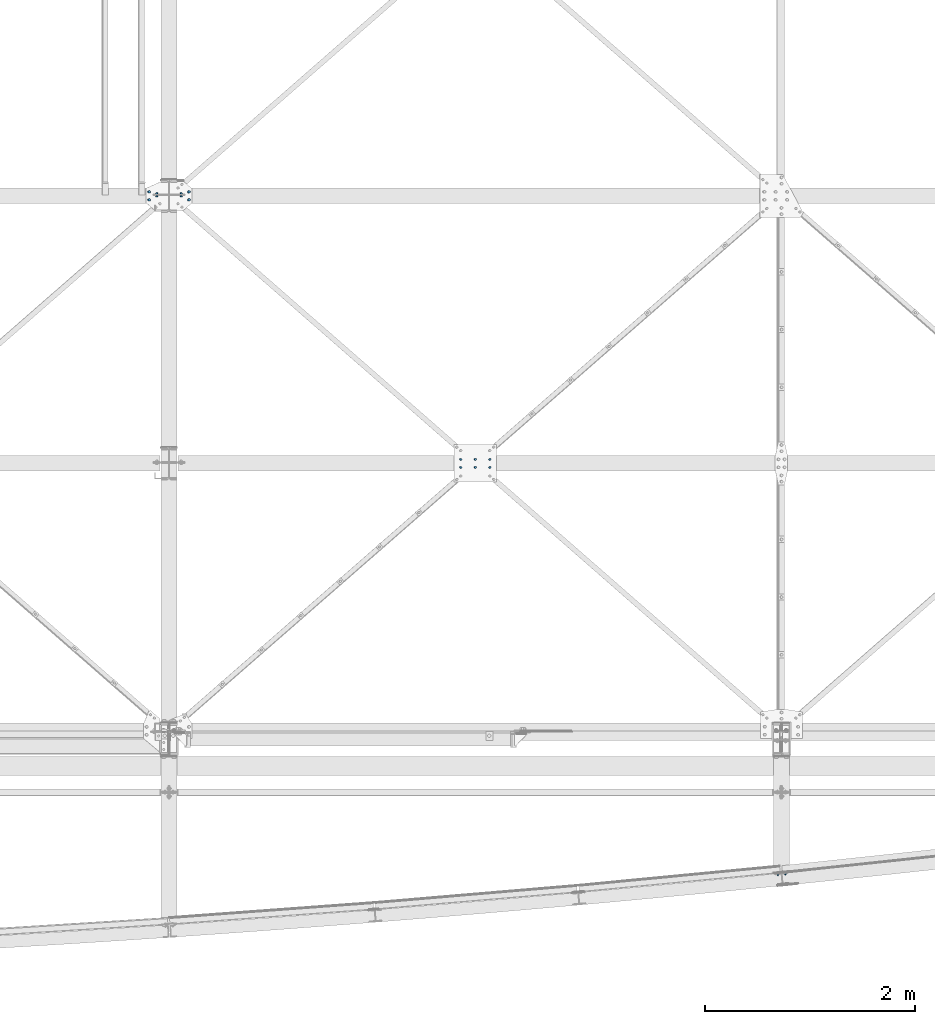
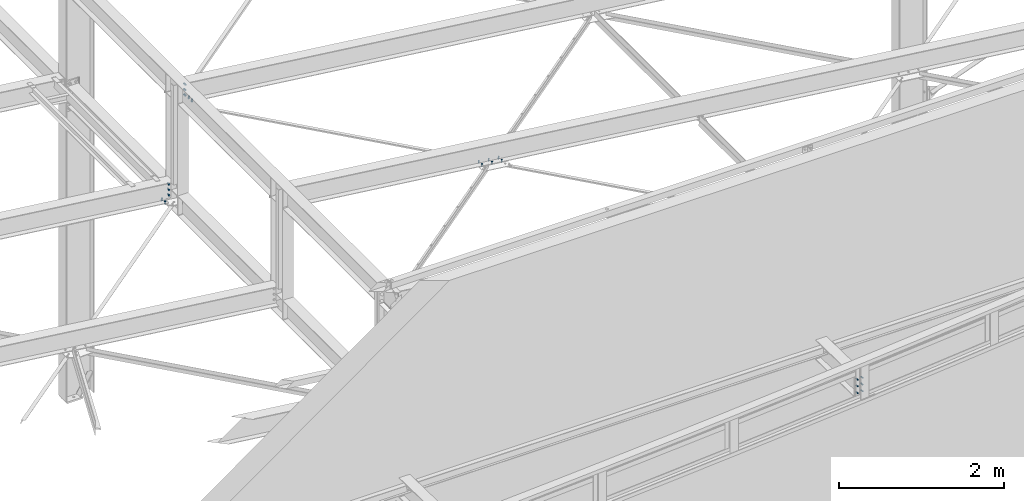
# One storey, part 105 of 3134: 6 mechanical fasteners, 4 elements without a shape of their own.
"""IFC2X3 building model written with IfcOpenShell, lengths in millimetres."""

from ifc_helpers import new_model, si_unit, frame, origin_with_axes, place, context, subcontext, project, spatial, faceted_brep, source, transform, mapped, material, type_object, element, aggregate, save


model = new_model("IFC2X3")

# Units and contexts
model_context = context("Model", 3, precision=1e-05, world=origin_with_axes())
body_context = subcontext(model_context, "Body", "Model", "MODEL_VIEW")
ifc_project = project(units=[si_unit("LENGTHUNIT", "METRE", prefix="MILLI"), si_unit("AREAUNIT", "SQUARE_METRE"), si_unit("VOLUMEUNIT", "CUBIC_METRE"), si_unit("MASSUNIT", "GRAM", prefix="KILO"), si_unit("TIMEUNIT", "SECOND"), si_unit("PLANEANGLEUNIT", "RADIAN"), si_unit("SOLIDANGLEUNIT", "STERADIAN"), si_unit("THERMODYNAMICTEMPERATUREUNIT", "DEGREE_CELSIUS"), si_unit("LUMINOUSINTENSITYUNIT", "LUMEN")], contexts=[model_context])

# Site, building, storey
site_placement = place(None, origin_with_axes())
site = spatial("IfcSite", under=ifc_project, at=site_placement, CompositionType="ELEMENT")
building_placement = place(site_placement, origin_with_axes())
building = spatial("IfcBuilding", under=site, at=building_placement, Name="Undefined", CompositionType="ELEMENT")
storey_placement = place(building_placement, origin_with_axes())
storey = spatial("IfcBuildingStorey", under=building, at=storey_placement, Name="Undefined", CompositionType="ELEMENT", Elevation=0.0)

# Assembly, mechanical fastener
assembly_1_placement = place(storey_placement, origin_with_axes())
assembly_1 = element("IfcElementAssembly", 1, at=assembly_1_placement, inside=storey, Name="UPN120", AssemblyPlace="NOTDEFINED", PredefinedType="RIGID_FRAME")
ifc_material = material(Name="8.8")
mechanical_fastener_type = type_object("IfcMechanicalFastenerType", Name="Bolt assembly")
shared_shape_1 = source(origin_with_axes(), body_context, "Body", "Brep", [
    faceted_brep([(10.9696551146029, -7.99980031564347, 0.0), (5.48482755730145, -7.99980031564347, 9.5), (-5.48482755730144, -7.99980031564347, 9.5), (-10.9696551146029, -7.99980031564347, 1.34339530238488e-15), (-5.48482755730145, -7.99980031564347, -9.5), (5.48482755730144, -7.99980031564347, -9.50000000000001), (5.48482755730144, 0.000199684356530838, -9.50000000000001), (-5.48482755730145, 0.000199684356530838, -9.5), (-10.9696551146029, 0.000199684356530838, 1.34339530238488e-15), (-5.48482755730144, 0.000199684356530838, 9.5), (5.48482755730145, 0.000199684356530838, 9.5), (10.9696551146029, 0.000199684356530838, 0.0), (6.0, 0.000199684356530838, 0.0), (5.19615242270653, 0.000199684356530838, 3.00000000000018), (2.99999999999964, 0.000199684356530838, 5.19615242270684), (-6.21801588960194e-13, 0.000199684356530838, 6.0), (-3.00000000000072, 0.000199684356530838, 5.19615242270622), (-5.19615242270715, 0.000199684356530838, 2.9999999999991), (-6.0, 0.000199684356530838, -1.24360317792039e-12), (-5.19615242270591, 0.000199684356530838, -3.00000000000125), (-2.99999999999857, 0.000199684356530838, -5.19615242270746), (1.85874342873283e-12, 0.000199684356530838, -6.0), (3.00000000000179, 0.000199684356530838, -5.1961524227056), (5.19615242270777, 0.000199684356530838, -2.99999999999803), (5.19615242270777, 35.0001996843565, -2.99999999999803), (3.00000000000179, 35.0001996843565, -5.1961524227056), (1.85874342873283e-12, 35.0001996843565, -6.0), (-2.99999999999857, 35.0001996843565, -5.19615242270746), (-5.19615242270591, 35.0001996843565, -3.00000000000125), (-6.0, 35.0001996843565, -1.24360317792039e-12), (-5.19615242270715, 35.0001996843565, 2.9999999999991), (-3.00000000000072, 35.0001996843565, 5.19615242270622), (-6.21801588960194e-13, 35.0001996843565, 6.0), (2.99999999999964, 35.0001996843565, 5.19615242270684), (5.19615242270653, 35.0001996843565, 3.00000000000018), (6.0, 35.0001996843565, 0.0), (10.9696551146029, 18.0000503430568, 0.0), (5.48482755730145, 18.0000503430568, 9.5), (-5.48482755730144, 18.0000503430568, 9.5), (-10.9696551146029, 18.0000503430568, 1.34339530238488e-15), (-5.48482755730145, 18.0000503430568, -9.5), (5.48482755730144, 18.0000503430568, -9.50000000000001), (5.48482755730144, 28.0000503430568, -9.50000000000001), (-5.48482755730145, 28.0000503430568, -9.5), (-10.9696551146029, 28.0000503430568, 1.34339530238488e-15), (-5.48482755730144, 28.0000503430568, 9.5), (5.48482755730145, 28.0000503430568, 9.5), (10.9696551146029, 28.0000503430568, 0.0)], [[[0, 1, 2, 3, 4, 5]], [[6, 7, 8, 9, 10, 11]], [[0, 11, 10, 1]], [[1, 10, 9, 2]], [[2, 9, 8, 3]], [[3, 8, 7, 4]], [[4, 7, 6, 5]], [[5, 6, 11, 0]], [[12, 13, 14, 15, 16, 17, 18, 19, 20, 21, 22, 23]], [[24, 25, 26, 27, 28, 29, 30, 31, 32, 33, 34, 35]], [[12, 35, 34, 13]], [[13, 34, 33, 14]], [[14, 33, 32, 15]], [[15, 32, 31, 16]], [[16, 31, 30, 17]], [[17, 30, 29, 18]], [[18, 29, 28, 19]], [[19, 28, 27, 20]], [[20, 27, 26, 21]], [[21, 26, 25, 22]], [[22, 25, 24, 23]], [[23, 24, 35, 12]], [[36, 37, 38, 39, 40, 41]], [[42, 43, 44, 45, 46, 47]], [[36, 47, 46, 37]], [[37, 46, 45, 38]], [[38, 45, 44, 39]], [[39, 44, 43, 40]], [[40, 43, 42, 41]], [[41, 42, 47, 36]]]),
    faceted_brep([(7.0, 0.100152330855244, 0.0), (6.06217782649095, 0.100152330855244, 3.50000000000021), (3.49999999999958, 0.100152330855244, 6.06217782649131), (-7.25435187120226e-13, 0.100152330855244, 7.0), (-3.50000000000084, 0.100152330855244, 6.06217782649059), (-6.06217782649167, 0.100152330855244, 3.49999999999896), (-7.0, 0.100152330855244, -1.45087037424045e-12), (-6.06217782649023, 0.100152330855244, -3.50000000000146), (-3.49999999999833, 0.100152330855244, -6.06217782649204), (2.1685340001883e-12, 0.100152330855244, -7.0), (3.50000000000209, 0.100152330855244, -6.06217782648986), (6.0621778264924, 0.100152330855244, -3.4999999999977), (6.0621778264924, 10.1001996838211, -3.4999999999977), (3.50000000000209, 10.1001996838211, -6.06217782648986), (2.1685340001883e-12, 10.1001996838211, -7.0), (-3.49999999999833, 10.1001996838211, -6.06217782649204), (-6.06217782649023, 10.1001996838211, -3.50000000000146), (-7.0, 10.1001996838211, -1.45087037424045e-12), (-6.06217782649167, 10.1001996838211, 3.49999999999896), (-3.50000000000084, 10.1001996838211, 6.06217782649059), (-7.25435187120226e-13, 10.1001996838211, 7.0), (3.49999999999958, 10.1001996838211, 6.06217782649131), (6.06217782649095, 10.1001996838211, 3.50000000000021), (7.0, 10.1001996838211, 0.0), (7.0, 9.90005034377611, 0.0), (6.06217782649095, 9.90005034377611, 3.50000000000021), (3.49999999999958, 9.90005034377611, 6.06217782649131), (-7.25435187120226e-13, 9.90005034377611, 7.0), (-3.50000000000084, 9.90005034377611, 6.06217782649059), (-6.06217782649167, 9.90005034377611, 3.49999999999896), (-7.0, 9.90005034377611, -1.45087037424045e-12), (-6.06217782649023, 9.90005034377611, -3.50000000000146), (-3.49999999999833, 9.90005034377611, -6.06217782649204), (2.1685340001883e-12, 9.90005034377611, -7.0), (3.50000000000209, 9.90005034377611, -6.06217782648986), (6.0621778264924, 9.90005034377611, -3.4999999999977), (6.0621778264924, 18.0000503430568, -3.4999999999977), (3.50000000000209, 18.0000503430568, -6.06217782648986), (2.1685340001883e-12, 18.0000503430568, -7.0), (-3.49999999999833, 18.0000503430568, -6.06217782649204), (-6.06217782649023, 18.0000503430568, -3.50000000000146), (-7.0, 18.0000503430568, -1.45087037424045e-12), (-6.06217782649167, 18.0000503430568, 3.49999999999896), (-3.50000000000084, 18.0000503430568, 6.06217782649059), (-7.25435187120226e-13, 18.0000503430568, 7.0), (3.49999999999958, 18.0000503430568, 6.06217782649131), (6.06217782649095, 18.0000503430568, 3.50000000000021), (7.0, 18.0000503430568, 0.0)], [[[0, 1, 2, 3, 4, 5, 6, 7, 8, 9, 10, 11]], [[12, 13, 14, 15, 16, 17, 18, 19, 20, 21, 22, 23]], [[0, 23, 22, 1]], [[1, 22, 21, 2]], [[2, 21, 20, 3]], [[3, 20, 19, 4]], [[4, 19, 18, 5]], [[5, 18, 17, 6]], [[6, 17, 16, 7]], [[7, 16, 15, 8]], [[8, 15, 14, 9]], [[9, 14, 13, 10]], [[10, 13, 12, 11]], [[11, 12, 23, 0]], [[24, 25, 26, 27, 28, 29, 30, 31, 32, 33, 34, 35]], [[36, 37, 38, 39, 40, 41, 42, 43, 44, 45, 46, 47]], [[24, 47, 46, 25]], [[25, 46, 45, 26]], [[26, 45, 44, 27]], [[27, 44, 43, 28]], [[28, 43, 42, 29]], [[29, 42, 41, 30]], [[30, 41, 40, 31]], [[31, 40, 39, 32]], [[32, 39, 38, 33]], [[33, 38, 37, 34]], [[34, 37, 36, 35]], [[35, 36, 47, 24]]]),
])
mechanical_fastener_1_placement = place(assembly_1_placement, frame((38362.4990537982, -1345.47532580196, 3293.41815992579), z_axis=(-0.994924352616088, -0.100625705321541, 1.00625716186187e-08), x_axis=(0.0, 0.0, -1.0)))
mechanical_fastener_1 = element("IfcMechanicalFastener", 2, at=mechanical_fastener_1_placement, type_object=mechanical_fastener_type, material=ifc_material, Name="Bolt assembly", NominalDiameter=12.0, NominalLength=35.0, context=body_context, shape_type="MappedRepresentation", body=[
    mapped(shared_shape_1, transform((0.0, 0.0, -35.0))),
    mapped(shared_shape_1, transform((100.0, 2.05545802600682e-10, -35.0000000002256))),
    mapped(shared_shape_1, transform((200.0, 2.05545802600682e-10, -35.0000000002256))),
    mapped(shared_shape_1, transform((0.0, 0.0, 35.0))),
    mapped(shared_shape_1, transform((100.0, -2.07364792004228e-10, 35.0000000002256))),
    mapped(shared_shape_1, transform((200.0, -2.07364792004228e-10, 35.0000000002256))),
])
aggregate(assembly_1, [mechanical_fastener_1])

assembly_2_placement = place(storey_placement, origin_with_axes())
assembly_2 = element("IfcElementAssembly", 3, at=assembly_2_placement, inside=storey, Name="300", AssemblyPlace="NOTDEFINED", PredefinedType="RIGID_FRAME")
shared_shape_2 = source(origin_with_axes(), body_context, "Body", "Brep", [
    faceted_brep([(13.856406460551, -19.199990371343, 0.0), (6.92820323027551, -19.199990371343, 12.0), (-6.92820323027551, -19.199990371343, 12.0), (-13.856406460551, -19.199990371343, 1.69692038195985e-15), (-6.92820323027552, -19.199990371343, -12.0), (6.9282032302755, -19.199990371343, -12.0), (6.9282032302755, -9.19999037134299, -12.0), (-6.92820323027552, -9.19999037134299, -12.0), (-13.856406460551, -9.19999037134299, 1.69692038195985e-15), (-6.92820323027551, -9.19999037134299, 12.0), (6.92820323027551, -9.19999037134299, 12.0), (13.856406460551, -9.19999037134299, 0.0), (8.0, -9.19999037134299, 0.0), (6.92820323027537, -9.19999037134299, 4.00000000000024), (3.99999999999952, -9.19999037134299, 6.92820323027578), (-8.29068785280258e-13, -9.19999037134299, 8.0), (-4.00000000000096, -9.19999037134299, 6.92820323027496), (-6.9282032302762, -9.19999037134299, 3.99999999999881), (-8.0, -9.19999037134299, -1.65813757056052e-12), (-6.92820323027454, -9.19999037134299, -4.00000000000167), (-3.99999999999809, -9.19999037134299, -6.92820323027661), (2.47832457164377e-12, -9.19999037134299, -8.0), (4.00000000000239, -9.19999037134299, -6.92820323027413), (6.92820323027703, -9.19999037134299, -3.99999999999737), (6.92820323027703, 25.800009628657, -3.99999999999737), (4.00000000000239, 25.800009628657, -6.92820323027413), (2.47832457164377e-12, 25.800009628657, -8.0), (-3.99999999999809, 25.800009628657, -6.92820323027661), (-6.92820323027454, 25.800009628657, -4.00000000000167), (-8.0, 25.800009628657, -1.65813757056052e-12), (-6.9282032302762, 25.800009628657, 3.99999999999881), (-4.00000000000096, 25.800009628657, 6.92820323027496), (-8.29068785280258e-13, 25.800009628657, 8.0), (3.99999999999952, 25.800009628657, 6.92820323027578), (6.92820323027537, 25.800009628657, 4.00000000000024), (8.0, 25.800009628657, 0.0), (13.856406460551, 8.00000637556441, 0.0), (6.92820323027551, 8.00000637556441, 12.0), (-6.92820323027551, 8.00000637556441, 12.0), (-13.856406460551, 8.00000637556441, 1.69692038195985e-15), (-6.92820323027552, 8.00000637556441, -12.0), (6.9282032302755, 8.00000637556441, -12.0), (6.9282032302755, 21.0000063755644, -12.0), (-6.92820323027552, 21.0000063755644, -12.0), (-13.856406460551, 21.0000063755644, 1.69692038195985e-15), (-6.92820323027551, 21.0000063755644, 12.0), (6.92820323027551, 21.0000063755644, 12.0), (13.856406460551, 21.0000063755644, 0.0)], [[[0, 1, 2, 3, 4, 5]], [[6, 7, 8, 9, 10, 11]], [[0, 11, 10, 1]], [[1, 10, 9, 2]], [[2, 9, 8, 3]], [[3, 8, 7, 4]], [[4, 7, 6, 5]], [[5, 6, 11, 0]], [[12, 13, 14, 15, 16, 17, 18, 19, 20, 21, 22, 23]], [[24, 25, 26, 27, 28, 29, 30, 31, 32, 33, 34, 35]], [[12, 35, 34, 13]], [[13, 34, 33, 14]], [[14, 33, 32, 15]], [[15, 32, 31, 16]], [[16, 31, 30, 17]], [[17, 30, 29, 18]], [[18, 29, 28, 19]], [[19, 28, 27, 20]], [[20, 27, 26, 21]], [[21, 26, 25, 22]], [[22, 25, 24, 23]], [[23, 24, 35, 12]], [[36, 37, 38, 39, 40, 41]], [[42, 43, 44, 45, 46, 47]], [[36, 47, 46, 37]], [[37, 46, 45, 38]], [[38, 45, 44, 39]], [[39, 44, 43, 40]], [[40, 43, 42, 41]], [[41, 42, 47, 36]]]),
    faceted_brep([(9.0, -0.1, 0.0), (7.79422863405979, -0.1, 4.50000000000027), (4.49999999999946, -0.1, 7.79422863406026), (-9.3270238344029e-13, -0.1, 9.0), (-4.50000000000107, -0.1, 7.79422863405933), (-7.79422863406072, -0.1, 4.49999999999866), (-9.0, -0.1, -1.86540476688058e-12), (-7.79422863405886, -0.1, -4.50000000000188), (-4.49999999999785, -0.1, -7.79422863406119), (2.78811514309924e-12, -0.1, -9.0), (4.50000000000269, -0.1, -7.7942286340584), (7.79422863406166, -0.1, -4.49999999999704), (7.79422863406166, 8.00000000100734, -4.49999999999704), (4.50000000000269, 8.00000000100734, -7.7942286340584), (2.78811514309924e-12, 8.00000000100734, -9.0), (-4.49999999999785, 8.00000000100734, -7.79422863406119), (-7.79422863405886, 8.00000000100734, -4.50000000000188), (-9.0, 8.00000000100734, -1.86540476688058e-12), (-7.79422863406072, 8.00000000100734, 4.49999999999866), (-4.50000000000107, 8.00000000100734, 7.79422863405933), (-9.3270238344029e-13, 8.00000000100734, 9.0), (4.49999999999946, 8.00000000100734, 7.79422863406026), (7.79422863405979, 8.00000000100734, 4.50000000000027), (9.0, 8.00000000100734, 0.0), (9.0, -9.09999037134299, 0.0), (7.79422863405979, -9.09999037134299, 4.50000000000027), (4.49999999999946, -9.09999037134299, 7.79422863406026), (-9.3270238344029e-13, -9.09999037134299, 9.0), (-4.50000000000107, -9.09999037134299, 7.79422863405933), (-7.79422863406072, -9.09999037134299, 4.49999999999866), (-9.0, -9.09999037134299, -1.86540476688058e-12), (-7.79422863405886, -9.09999037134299, -4.50000000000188), (-4.49999999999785, -9.09999037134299, -7.79422863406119), (2.78811514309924e-12, -9.09999037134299, -9.0), (4.50000000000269, -9.09999037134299, -7.7942286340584), (7.79422863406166, -9.09999037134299, -4.49999999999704), (7.79422863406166, 0.100000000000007, -4.49999999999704), (4.50000000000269, 0.100000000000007, -7.7942286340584), (2.78811514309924e-12, 0.100000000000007, -9.0), (-4.49999999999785, 0.100000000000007, -7.79422863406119), (-7.79422863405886, 0.100000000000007, -4.50000000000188), (-9.0, 0.100000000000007, -1.86540476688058e-12), (-7.79422863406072, 0.100000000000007, 4.49999999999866), (-4.50000000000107, 0.100000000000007, 7.79422863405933), (-9.3270238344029e-13, 0.100000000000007, 9.0), (4.49999999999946, 0.100000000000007, 7.79422863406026), (7.79422863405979, 0.100000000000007, 4.50000000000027), (9.0, 0.100000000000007, 0.0)], [[[0, 1, 2, 3, 4, 5, 6, 7, 8, 9, 10, 11]], [[12, 13, 14, 15, 16, 17, 18, 19, 20, 21, 22, 23]], [[0, 23, 22, 1]], [[1, 22, 21, 2]], [[2, 21, 20, 3]], [[3, 20, 19, 4]], [[4, 19, 18, 5]], [[5, 18, 17, 6]], [[6, 17, 16, 7]], [[7, 16, 15, 8]], [[8, 15, 14, 9]], [[9, 14, 13, 10]], [[10, 13, 12, 11]], [[11, 12, 23, 0]], [[24, 25, 26, 27, 28, 29, 30, 31, 32, 33, 34, 35]], [[36, 37, 38, 39, 40, 41, 42, 43, 44, 45, 46, 47]], [[24, 47, 46, 25]], [[25, 46, 45, 26]], [[26, 45, 44, 27]], [[27, 44, 43, 28]], [[28, 43, 42, 29]], [[29, 42, 41, 30]], [[30, 41, 40, 31]], [[31, 40, 39, 32]], [[32, 39, 38, 33]], [[33, 38, 37, 34]], [[34, 37, 36, 35]], [[35, 36, 47, 24]]]),
])
mechanical_fastener_2_placement = place(assembly_2_placement, frame((32336.7539628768, 5137.99951302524, 4116.78546253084), z_axis=(0.992623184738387, -1.63108538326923e-05, -0.12124031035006), x_axis=(-1.62000016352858e-05, -0.999999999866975, 1.90000018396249e-06)))
mechanical_fastener_2 = element("IfcMechanicalFastener", 4, at=mechanical_fastener_2_placement, type_object=mechanical_fastener_type, material=ifc_material, Name="Bolt assembly", NominalDiameter=16.0, NominalLength=35.0, context=body_context, shape_type="MappedRepresentation", body=[
    mapped(shared_shape_2, transform((0.0, 0.0, 0.0))),
    mapped(shared_shape_2, transform((76.0, 0.0, 0.0))),
])

assembly_3_placement = place(storey_placement, origin_with_axes())
assembly_3 = element("IfcElementAssembly", 5, at=assembly_3_placement, inside=storey, Name="300", AssemblyPlace="NOTDEFINED", PredefinedType="RIGID_FRAME")
mechanical_fastener_3_placement = place(assembly_3_placement, frame((32714.2248162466, 5137.99951302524, 5496.68063423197), z_axis=(0.992623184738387, 1.63108538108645e-05, -0.12124031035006), x_axis=(1.62000016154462e-05, -0.999999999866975, -1.90000018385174e-06)))
mechanical_fastener_3 = element("IfcMechanicalFastener", 6, at=mechanical_fastener_3_placement, type_object=mechanical_fastener_type, material=ifc_material, Name="Bolt assembly", NominalDiameter=16.0, NominalLength=35.0, context=body_context, shape_type="MappedRepresentation", body=[
    mapped(shared_shape_2, transform((0.0, 0.0, 0.0))),
    mapped(shared_shape_2, transform((76.0, 0.0, 0.0))),
])

# Mechanical fastener
shared_shape_3 = source(origin_with_axes(), body_context, "Body", "Brep", [
    faceted_brep([(13.856406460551, -13.0499999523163, 0.0), (6.92820323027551, -13.0499999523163, 12.0), (-6.92820323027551, -13.0499999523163, 12.0), (-13.856406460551, -13.0499999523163, 1.69692038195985e-15), (-6.92820323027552, -13.0499999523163, -12.0), (6.9282032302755, -13.0499999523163, -12.0), (6.9282032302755, -3.04999995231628, -12.0), (-6.92820323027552, -3.04999995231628, -12.0), (-13.856406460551, -3.04999995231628, 1.69692038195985e-15), (-6.92820323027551, -3.04999995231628, 12.0), (6.92820323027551, -3.04999995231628, 12.0), (13.856406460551, -3.04999995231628, 0.0), (8.0, -3.04999995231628, 0.0), (6.92820323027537, -3.04999995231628, 4.00000000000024), (3.99999999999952, -3.04999995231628, 6.92820323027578), (-8.29068785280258e-13, -3.04999995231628, 8.0), (-4.00000000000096, -3.04999995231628, 6.92820323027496), (-6.9282032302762, -3.04999995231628, 3.99999999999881), (-8.0, -3.04999995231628, -1.65813757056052e-12), (-6.92820323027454, -3.04999995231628, -4.00000000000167), (-3.99999999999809, -3.04999995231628, -6.92820323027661), (2.47832457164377e-12, -3.04999995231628, -8.0), (4.00000000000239, -3.04999995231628, -6.92820323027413), (6.92820323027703, -3.04999995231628, -3.99999999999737), (6.92820323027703, 31.9500000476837, -3.99999999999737), (4.00000000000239, 31.9500000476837, -6.92820323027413), (2.47832457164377e-12, 31.9500000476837, -8.0), (-3.99999999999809, 31.9500000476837, -6.92820323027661), (-6.92820323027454, 31.9500000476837, -4.00000000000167), (-8.0, 31.9500000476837, -1.65813757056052e-12), (-6.9282032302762, 31.9500000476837, 3.99999999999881), (-4.00000000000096, 31.9500000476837, 6.92820323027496), (-8.29068785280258e-13, 31.9500000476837, 8.0), (3.99999999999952, 31.9500000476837, 6.92820323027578), (6.92820323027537, 31.9500000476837, 4.00000000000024), (8.0, 31.9500000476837, 0.0), (13.856406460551, 13.0500000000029, 0.0), (6.92820323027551, 13.0500000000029, 12.0), (-6.92820323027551, 13.0500000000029, 12.0), (-13.856406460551, 13.0500000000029, 1.69692038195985e-15), (-6.92820323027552, 13.0500000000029, -12.0), (6.9282032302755, 13.0500000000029, -12.0), (6.9282032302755, 26.0500000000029, -12.0), (-6.92820323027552, 26.0500000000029, -12.0), (-13.856406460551, 26.0500000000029, 1.69692038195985e-15), (-6.92820323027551, 26.0500000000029, 12.0), (6.92820323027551, 26.0500000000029, 12.0), (13.856406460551, 26.0500000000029, 0.0)], [[[0, 1, 2, 3, 4, 5]], [[6, 7, 8, 9, 10, 11]], [[0, 11, 10, 1]], [[1, 10, 9, 2]], [[2, 9, 8, 3]], [[3, 8, 7, 4]], [[4, 7, 6, 5]], [[5, 6, 11, 0]], [[12, 13, 14, 15, 16, 17, 18, 19, 20, 21, 22, 23]], [[24, 25, 26, 27, 28, 29, 30, 31, 32, 33, 34, 35]], [[12, 35, 34, 13]], [[13, 34, 33, 14]], [[14, 33, 32, 15]], [[15, 32, 31, 16]], [[16, 31, 30, 17]], [[17, 30, 29, 18]], [[18, 29, 28, 19]], [[19, 28, 27, 20]], [[20, 27, 26, 21]], [[21, 26, 25, 22]], [[22, 25, 24, 23]], [[23, 24, 35, 12]], [[36, 37, 38, 39, 40, 41]], [[42, 43, 44, 45, 46, 47]], [[36, 47, 46, 37]], [[37, 46, 45, 38]], [[38, 45, 44, 39]], [[39, 44, 43, 40]], [[40, 43, 42, 41]], [[41, 42, 47, 36]]]),
    faceted_brep([(9.0, 2.95000000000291, 0.0), (7.79422863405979, 2.95000000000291, 4.50000000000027), (4.49999999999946, 2.95000000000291, 7.79422863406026), (-9.3270238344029e-13, 2.95000000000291, 9.0), (-4.50000000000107, 2.95000000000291, 7.79422863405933), (-7.79422863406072, 2.95000000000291, 4.49999999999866), (-9.0, 2.95000000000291, -1.86540476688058e-12), (-7.79422863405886, 2.95000000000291, -4.50000000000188), (-4.49999999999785, 2.95000000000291, -7.79422863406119), (2.78811514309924e-12, 2.95000000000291, -9.0), (4.50000000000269, 2.95000000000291, -7.7942286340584), (7.79422863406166, 2.95000000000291, -4.49999999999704), (7.79422863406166, 13.0500000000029, -4.49999999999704), (4.50000000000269, 13.0500000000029, -7.7942286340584), (2.78811514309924e-12, 13.0500000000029, -9.0), (-4.49999999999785, 13.0500000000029, -7.79422863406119), (-7.79422863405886, 13.0500000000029, -4.50000000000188), (-9.0, 13.0500000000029, -1.86540476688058e-12), (-7.79422863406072, 13.0500000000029, 4.49999999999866), (-4.50000000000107, 13.0500000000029, 7.79422863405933), (-9.3270238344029e-13, 13.0500000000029, 9.0), (4.49999999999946, 13.0500000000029, 7.79422863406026), (7.79422863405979, 13.0500000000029, 4.50000000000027), (9.0, 13.0500000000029, 0.0), (9.0, -2.94999995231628, 0.0), (7.79422863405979, -2.94999995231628, 4.50000000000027), (4.49999999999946, -2.94999995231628, 7.79422863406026), (-9.3270238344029e-13, -2.94999995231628, 9.0), (-4.50000000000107, -2.94999995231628, 7.79422863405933), (-7.79422863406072, -2.94999995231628, 4.49999999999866), (-9.0, -2.94999995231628, -1.86540476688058e-12), (-7.79422863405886, -2.94999995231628, -4.50000000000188), (-4.49999999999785, -2.94999995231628, -7.79422863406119), (2.78811514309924e-12, -2.94999995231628, -9.0), (4.50000000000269, -2.94999995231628, -7.7942286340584), (7.79422863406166, -2.94999995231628, -4.49999999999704), (7.79422863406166, 3.14999995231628, -4.49999999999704), (4.50000000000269, 3.14999995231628, -7.7942286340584), (2.78811514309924e-12, 3.14999995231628, -9.0), (-4.49999999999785, 3.14999995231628, -7.79422863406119), (-7.79422863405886, 3.14999995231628, -4.50000000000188), (-9.0, 3.14999995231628, -1.86540476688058e-12), (-7.79422863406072, 3.14999995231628, 4.49999999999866), (-4.50000000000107, 3.14999995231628, 7.79422863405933), (-9.3270238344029e-13, 3.14999995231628, 9.0), (4.49999999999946, 3.14999995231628, 7.79422863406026), (7.79422863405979, 3.14999995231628, 4.50000000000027), (9.0, 3.14999995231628, 0.0)], [[[0, 1, 2, 3, 4, 5, 6, 7, 8, 9, 10, 11]], [[12, 13, 14, 15, 16, 17, 18, 19, 20, 21, 22, 23]], [[0, 23, 22, 1]], [[1, 22, 21, 2]], [[2, 21, 20, 3]], [[3, 20, 19, 4]], [[4, 19, 18, 5]], [[5, 18, 17, 6]], [[6, 17, 16, 7]], [[7, 16, 15, 8]], [[8, 15, 14, 9]], [[9, 14, 13, 10]], [[10, 13, 12, 11]], [[11, 12, 23, 0]], [[24, 25, 26, 27, 28, 29, 30, 31, 32, 33, 34, 35]], [[36, 37, 38, 39, 40, 41, 42, 43, 44, 45, 46, 47]], [[24, 47, 46, 25]], [[25, 46, 45, 26]], [[26, 45, 44, 27]], [[27, 44, 43, 28]], [[28, 43, 42, 29]], [[29, 42, 41, 30]], [[30, 41, 40, 31]], [[31, 40, 39, 32]], [[32, 39, 38, 33]], [[33, 38, 37, 34]], [[34, 37, 36, 35]], [[35, 36, 47, 24]]]),
])
mechanical_fastener_4_placement = place(assembly_2_placement, frame((32410.0, 5100.0, 4337.44269270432), z_axis=(1.0, 0.0, 0.0), x_axis=(0.0, 0.0, -1.0)))
mechanical_fastener_4 = element("IfcMechanicalFastener", 7, at=mechanical_fastener_4_placement, type_object=mechanical_fastener_type, material=ifc_material, Name="Bolt assembly", NominalDiameter=16.0, NominalLength=35.0, context=body_context, shape_type="MappedRepresentation", body=[
    mapped(shared_shape_3, transform((0.0, 0.0, 0.0))),
    mapped(shared_shape_3, transform((80.0, 0.0, 0.0))),
    mapped(shared_shape_3, transform((160.0, 0.0, 0.0))),
])

aggregate(assembly_2, [mechanical_fastener_2, mechanical_fastener_4])

mechanical_fastener_5_placement = place(assembly_3_placement, frame((32640.0, 5100.0, 5735.35014950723), z_axis=(1.0, 0.0, 0.0), x_axis=(0.0, 0.0, -1.0)))
mechanical_fastener_5 = element("IfcMechanicalFastener", 8, at=mechanical_fastener_5_placement, type_object=mechanical_fastener_type, material=ifc_material, Name="Bolt assembly", NominalDiameter=16.0, NominalLength=35.0, context=body_context, shape_type="MappedRepresentation", body=[
    mapped(shared_shape_3, transform((0.0, 0.0, 0.0))),
    mapped(shared_shape_3, transform((80.0, 0.0, 0.0))),
    mapped(shared_shape_3, transform((160.0, 0.0, 0.0))),
])

aggregate(assembly_3, [mechanical_fastener_3, mechanical_fastener_5])

# Assembly, mechanical fastener
assembly_4_placement = place(storey_placement, origin_with_axes())
assembly_4 = element("IfcElementAssembly", 9, at=assembly_4_placement, inside=storey, Name="300", AssemblyPlace="NOTDEFINED", PredefinedType="RIGID_FRAME")
shared_shape_4 = source(origin_with_axes(), body_context, "Body", "Brep", [
    faceted_brep([(10.9696551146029, -17.1999998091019, 0.0), (5.48482755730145, -17.1999998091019, 9.5), (-5.48482755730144, -17.1999998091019, 9.5), (-10.9696551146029, -17.1999998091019, 1.34339530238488e-15), (-5.48482755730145, -17.1999998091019, -9.5), (5.48482755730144, -17.1999998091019, -9.50000000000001), (5.48482755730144, -9.19999978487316, -9.50000000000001), (-5.48482755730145, -9.19999978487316, -9.5), (-10.9696551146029, -9.19999978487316, 1.34339530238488e-15), (-5.48482755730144, -9.19999978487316, 9.5), (5.48482755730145, -9.19999978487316, 9.5), (10.9696551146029, -9.19999978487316, 0.0), (6.0, -9.19999978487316, 0.0), (5.19615242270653, -9.19999978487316, 3.00000000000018), (2.99999999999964, -9.19999978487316, 5.19615242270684), (-6.21801588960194e-13, -9.19999978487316, 6.0), (-3.00000000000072, -9.19999978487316, 5.19615242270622), (-5.19615242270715, -9.19999978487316, 2.9999999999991), (-6.0, -9.19999978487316, -1.24360317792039e-12), (-5.19615242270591, -9.19999978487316, -3.00000000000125), (-2.99999999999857, -9.19999978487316, -5.19615242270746), (1.85874342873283e-12, -9.19999978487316, -6.0), (3.00000000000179, -9.19999978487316, -5.1961524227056), (5.19615242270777, -9.19999978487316, -2.99999999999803), (5.19615242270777, 25.8000002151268, -2.99999999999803), (3.00000000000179, 25.8000002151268, -5.1961524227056), (1.85874342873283e-12, 25.8000002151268, -6.0), (-2.99999999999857, 25.8000002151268, -5.19615242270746), (-5.19615242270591, 25.8000002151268, -3.00000000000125), (-6.0, 25.8000002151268, -1.24360317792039e-12), (-5.19615242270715, 25.8000002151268, 2.9999999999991), (-3.00000000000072, 25.8000002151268, 5.19615242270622), (-6.21801588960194e-13, 25.8000002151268, 6.0), (2.99999999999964, 25.8000002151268, 5.19615242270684), (5.19615242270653, 25.8000002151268, 3.00000000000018), (6.0, 25.8000002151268, 0.0), (10.9696551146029, 8.0, 0.0), (5.48482755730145, 8.0, 9.5), (-5.48482755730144, 8.0, 9.5), (-10.9696551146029, 8.0, 1.34339530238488e-15), (-5.48482755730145, 8.0, -9.5), (5.48482755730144, 8.0, -9.50000000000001), (5.48482755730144, 18.0, -9.50000000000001), (-5.48482755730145, 18.0, -9.5), (-10.9696551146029, 18.0, 1.34339530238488e-15), (-5.48482755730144, 18.0, 9.5), (5.48482755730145, 18.0, 9.5), (10.9696551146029, 18.0, 0.0)], [[[0, 1, 2, 3, 4, 5]], [[6, 7, 8, 9, 10, 11]], [[0, 11, 10, 1]], [[1, 10, 9, 2]], [[2, 9, 8, 3]], [[3, 8, 7, 4]], [[4, 7, 6, 5]], [[5, 6, 11, 0]], [[12, 13, 14, 15, 16, 17, 18, 19, 20, 21, 22, 23]], [[24, 25, 26, 27, 28, 29, 30, 31, 32, 33, 34, 35]], [[12, 35, 34, 13]], [[13, 34, 33, 14]], [[14, 33, 32, 15]], [[15, 32, 31, 16]], [[16, 31, 30, 17]], [[17, 30, 29, 18]], [[18, 29, 28, 19]], [[19, 28, 27, 20]], [[20, 27, 26, 21]], [[21, 26, 25, 22]], [[22, 25, 24, 23]], [[23, 24, 35, 12]], [[36, 37, 38, 39, 40, 41]], [[42, 43, 44, 45, 46, 47]], [[36, 47, 46, 37]], [[37, 46, 45, 38]], [[38, 45, 44, 39]], [[39, 44, 43, 40]], [[40, 43, 42, 41]], [[41, 42, 47, 36]]]),
    faceted_brep([(7.0, -0.1, 0.0), (6.06217782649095, -0.1, 3.50000000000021), (3.49999999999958, -0.1, 6.06217782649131), (-7.25435187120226e-13, -0.1, 7.0), (-3.50000000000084, -0.1, 6.06217782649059), (-6.06217782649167, -0.1, 3.49999999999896), (-7.0, -0.1, -1.45087037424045e-12), (-6.06217782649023, -0.1, -3.50000000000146), (-3.49999999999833, -0.1, -6.06217782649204), (2.1685340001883e-12, -0.1, -7.0), (3.50000000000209, -0.1, -6.06217782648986), (6.0621778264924, -0.1, -3.4999999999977), (6.0621778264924, 8.0000000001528, -3.4999999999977), (3.50000000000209, 8.0000000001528, -6.06217782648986), (2.1685340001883e-12, 8.0000000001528, -7.0), (-3.49999999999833, 8.0000000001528, -6.06217782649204), (-6.06217782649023, 8.0000000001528, -3.50000000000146), (-7.0, 8.0000000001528, -1.45087037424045e-12), (-6.06217782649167, 8.0000000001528, 3.49999999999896), (-3.50000000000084, 8.0000000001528, 6.06217782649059), (-7.25435187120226e-13, 8.0000000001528, 7.0), (3.49999999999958, 8.0000000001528, 6.06217782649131), (6.06217782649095, 8.0000000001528, 3.50000000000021), (7.0, 8.0000000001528, 0.0), (7.0, -9.09999980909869, 0.0), (6.06217782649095, -9.09999980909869, 3.50000000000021), (3.49999999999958, -9.09999980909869, 6.06217782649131), (-7.25435187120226e-13, -9.09999980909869, 7.0), (-3.50000000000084, -9.09999980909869, 6.06217782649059), (-6.06217782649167, -9.09999980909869, 3.49999999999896), (-7.0, -9.09999980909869, -1.45087037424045e-12), (-6.06217782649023, -9.09999980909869, -3.50000000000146), (-3.49999999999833, -9.09999980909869, -6.06217782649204), (2.1685340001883e-12, -9.09999980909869, -7.0), (3.50000000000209, -9.09999980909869, -6.06217782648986), (6.0621778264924, -9.09999980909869, -3.4999999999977), (6.0621778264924, 0.0999999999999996, -3.4999999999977), (3.50000000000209, 0.0999999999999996, -6.06217782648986), (2.1685340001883e-12, 0.0999999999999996, -7.0), (-3.49999999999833, 0.0999999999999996, -6.06217782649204), (-6.06217782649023, 0.0999999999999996, -3.50000000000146), (-7.0, 0.0999999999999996, -1.45087037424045e-12), (-6.06217782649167, 0.0999999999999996, 3.49999999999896), (-3.50000000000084, 0.0999999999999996, 6.06217782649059), (-7.25435187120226e-13, 0.0999999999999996, 7.0), (3.49999999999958, 0.0999999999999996, 6.06217782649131), (6.06217782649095, 0.0999999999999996, 3.50000000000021), (7.0, 0.0999999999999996, 0.0)], [[[0, 1, 2, 3, 4, 5, 6, 7, 8, 9, 10, 11]], [[12, 13, 14, 15, 16, 17, 18, 19, 20, 21, 22, 23]], [[0, 23, 22, 1]], [[1, 22, 21, 2]], [[2, 21, 20, 3]], [[3, 20, 19, 4]], [[4, 19, 18, 5]], [[5, 18, 17, 6]], [[6, 17, 16, 7]], [[7, 16, 15, 8]], [[8, 15, 14, 9]], [[9, 14, 13, 10]], [[10, 13, 12, 11]], [[11, 12, 23, 0]], [[24, 25, 26, 27, 28, 29, 30, 31, 32, 33, 34, 35]], [[36, 37, 38, 39, 40, 41, 42, 43, 44, 45, 46, 47]], [[24, 47, 46, 25]], [[25, 46, 45, 26]], [[26, 45, 44, 27]], [[27, 44, 43, 28]], [[28, 43, 42, 29]], [[29, 42, 41, 30]], [[30, 41, 40, 31]], [[31, 40, 39, 32]], [[32, 39, 38, 33]], [[33, 38, 37, 34]], [[34, 37, 36, 35]], [[35, 36, 47, 24]]]),
])
mechanical_fastener_6_placement = place(assembly_4_placement, frame((35583.202206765, 2550.0, 5146.25993621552), z_axis=(0.0, -1.0, 0.0), x_axis=(-0.992623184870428, 0.0, 0.121240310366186)))
mechanical_fastener_6 = element("IfcMechanicalFastener", 10, at=mechanical_fastener_6_placement, type_object=mechanical_fastener_type, material=ifc_material, Name="Bolt assembly", NominalDiameter=12.0, NominalLength=35.0, context=body_context, shape_type="MappedRepresentation", body=[
    mapped(shared_shape_4, transform((0.0, 0.0, -38.0))),
    mapped(shared_shape_4, transform((140.000000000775, 5.85714587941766e-10, -38.0))),
    mapped(shared_shape_4, transform((279.999999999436, -4.74756234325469e-10, -38.0))),
    mapped(shared_shape_4, transform((0.0, 0.0, 38.0))),
    mapped(shared_shape_4, transform((140.000000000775, 5.85714587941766e-10, 38.0))),
    mapped(shared_shape_4, transform((279.999999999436, -4.74756234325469e-10, 38.0))),
])
aggregate(assembly_4, [mechanical_fastener_6])

save(model, "model.ifc")
